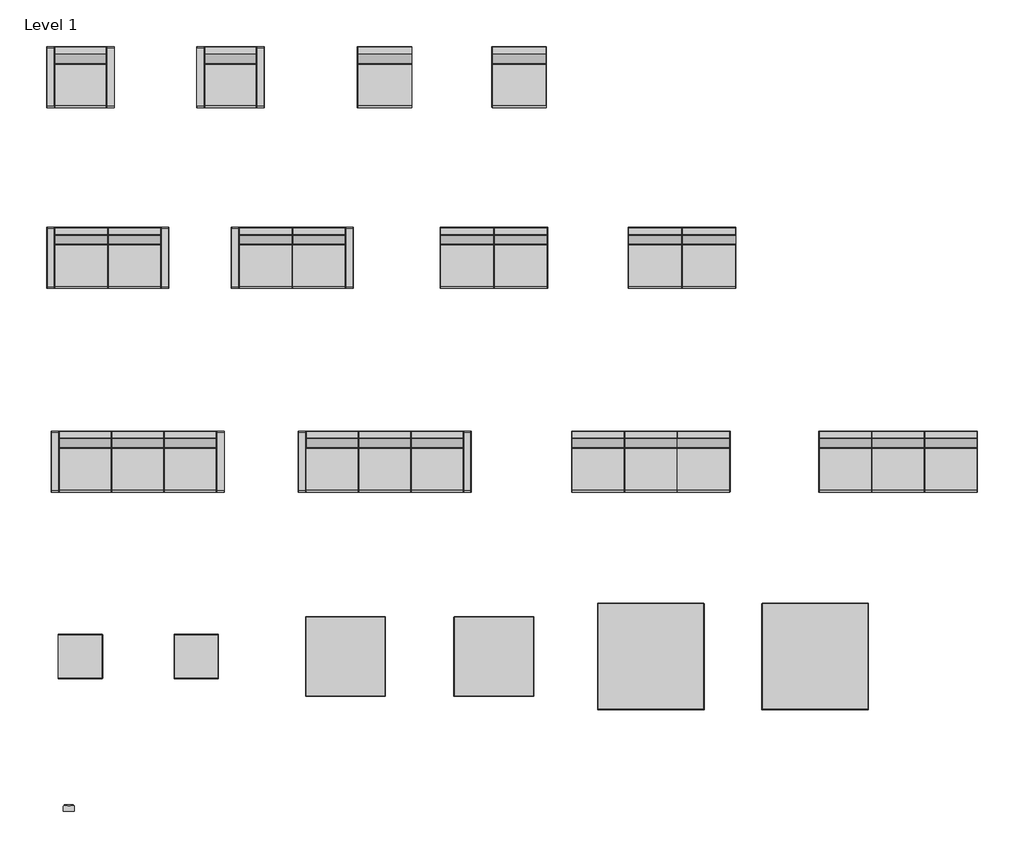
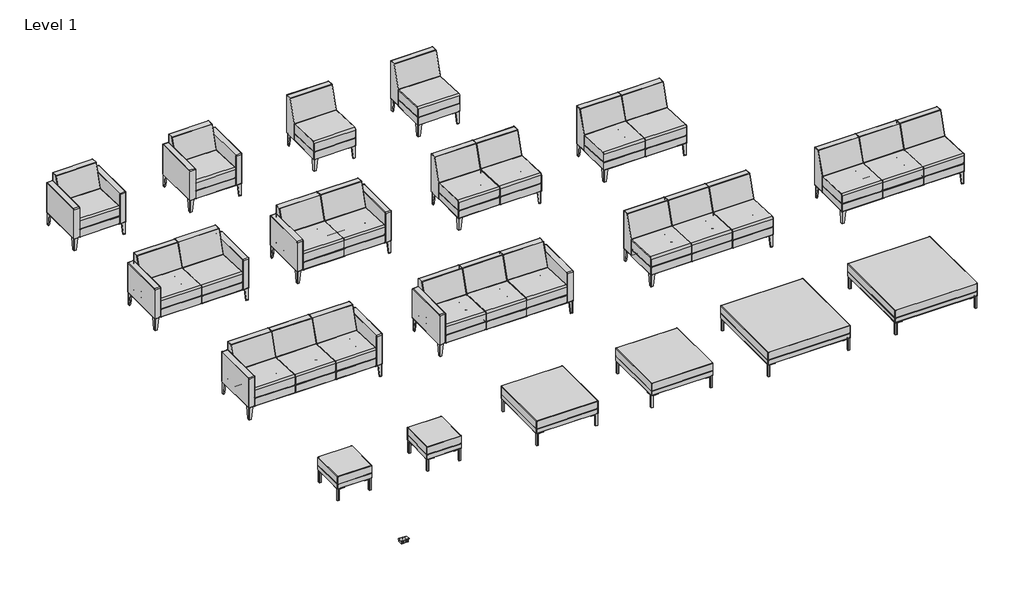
# One storey, incomplete: 19 furniture elements.
"""IFC4 building model written with IfcOpenShell, lengths in millimetres."""

from ifc_helpers import new_model, si_unit, origin, place, context, project, spatial, transform, mapped, element, save
from components import ec30_fccee3ca, tk1611_fd0749d8, tk1611_f8ab0853, tk1613_dd0fc4a0, tk1613_4c493a33, tk1621_2512d733, tk1621_4f83ef63, tk1621_9733f8f7, tk1623_fd01873e, tk1623_f2258a03, tk1631_d5cb96e8, tk1631_d9fb5791, tk1631_d7be27ab, tk1631_0486e6bf, tk1633_6774717b, tk1633_d6f510f4, tk1633_198e8653, tk1633_645ecb18, tk2020_f4fe18ef, tk3636_2cfd0a29, tk4848_6d53636c

model = new_model("IFC4")

# Units and contexts
model_context = context("Model", 3, world=origin())
ifc_project = project(units=[si_unit("LENGTHUNIT", "METRE", prefix="MILLI")], contexts=[model_context])

# Site, building, storey
site = spatial("IfcSite", under=ifc_project)
building = spatial("IfcBuilding", under=site)
storey = spatial("IfcBuildingStorey", under=building, Name="Level 1", Elevation=0.0)

# Furniture
placement = place(None, origin())
ec30_shape = ec30_fccee3ca(model_context)
element("IfcFurniture", 1, ObjectType="JSI-Teekan-Power_Center : EC30", at=placement, inside=storey, context=model_context, shape_type="MappedRepresentation", body=[
    mapped(ec30_shape, transform((-16133.8404938, -11881.6080034, 0.0), x_axis=(1.0, 0.0, 0.0), y_axis=(0.0, 1.0, 0.0), z_axis=(0.0, 0.0, 1.0))),
])
tk1611_shape = tk1611_fd0749d8(model_context)
tk1611_2_shape = tk1611_f8ab0853(model_context)
element("IfcFurniture", 2, ObjectType="JSI-Teekan-Single_Seat_Lounge : TK1611", at=placement, inside=storey, context=model_context, shape_type="MappedRepresentation", body=[
    mapped(tk1611_shape, transform((-16002.6709099, -3512.8761487, 0.0), x_axis=(1.0, 0.0, 0.0), y_axis=(0.0, 1.0, 0.0), z_axis=(0.0, 0.0, 1.0))),
    mapped(tk1611_2_shape, transform((-16002.6709099, -3512.8761487, 0.0), x_axis=(1.0, 0.0, 0.0), y_axis=(0.0, 1.0, 0.0), z_axis=(0.0, 0.0, 1.0))),
])
element("IfcFurniture", 3, ObjectType="JSI-Teekan-Single_Seat_Lounge : TK1611_M", at=placement, inside=storey, context=model_context, shape_type="MappedRepresentation", body=[
    mapped(tk1611_shape, transform((-14284.1267854, -3512.8761487, 0.0), x_axis=(1.0, 0.0, 0.0), y_axis=(0.0, 1.0, 0.0), z_axis=(0.0, 0.0, 1.0))),
    mapped(tk1611_2_shape, transform((-14284.1267854, -3512.8761487, 0.0), x_axis=(1.0, 0.0, 0.0), y_axis=(0.0, 1.0, 0.0), z_axis=(0.0, 0.0, 1.0))),
])
tk1613_shape = tk1613_dd0fc4a0(model_context)
tk1613_2_shape = tk1613_4c493a33(model_context)
element("IfcFurniture", 4, ObjectType="JSI-Teekan-Single_Seat_Lounge : TK1613", at=placement, inside=storey, context=model_context, shape_type="MappedRepresentation", body=[
    mapped(tk1613_shape, transform((-12519.6768509, -3512.8761487, 0.0), x_axis=(1.0, 0.0, 0.0), y_axis=(0.0, 1.0, 0.0), z_axis=(0.0, 0.0, 1.0))),
    mapped(tk1613_2_shape, transform((-12519.6768509, -3512.8761487, 0.0), x_axis=(1.0, 0.0, 0.0), y_axis=(0.0, 1.0, 0.0), z_axis=(0.0, 0.0, 1.0))),
])
element("IfcFurniture", 5, ObjectType="JSI-Teekan-Single_Seat_Lounge : TK1613_M", at=placement, inside=storey, context=model_context, shape_type="MappedRepresentation", body=[
    mapped(tk1613_shape, transform((-10979.6022336, -3512.8761487, 0.0), x_axis=(1.0, 0.0, 0.0), y_axis=(0.0, 1.0, 0.0), z_axis=(0.0, 0.0, 1.0))),
    mapped(tk1613_2_shape, transform((-10979.6022336, -3512.8761487, 0.0), x_axis=(1.0, 0.0, 0.0), y_axis=(0.0, 1.0, 0.0), z_axis=(0.0, 0.0, 1.0))),
])
tk1621_shape = tk1621_2512d733(model_context)
tk1621_2_shape = tk1621_4f83ef63(model_context)
tk1621_3_shape = tk1621_9733f8f7(model_context)
element("IfcFurniture", 6, ObjectType="JSI-Teekan-Two_Seat_Lounge : TK1621", at=placement, inside=storey, context=model_context, shape_type="MappedRepresentation", body=[
    mapped(tk1621_shape, transform((-15687.0236901, -5582.4504956, 0.0), x_axis=(1.0, 0.0, 0.0), y_axis=(0.0, 1.0, 0.0), z_axis=(0.0, 0.0, 1.0))),
    mapped(tk1621_2_shape, transform((-15687.0236901, -5582.4504956, 0.0), x_axis=(1.0, 0.0, 0.0), y_axis=(0.0, 1.0, 0.0), z_axis=(0.0, 0.0, 1.0))),
    mapped(tk1621_3_shape, transform((-15687.0236901, -5582.4504956, 0.0), x_axis=(1.0, 0.0, 0.0), y_axis=(0.0, 1.0, 0.0), z_axis=(0.0, 0.0, 1.0))),
])
element("IfcFurniture", 7, ObjectType="JSI-Teekan-Two_Seat_Lounge : TK1621_M", at=placement, inside=storey, context=model_context, shape_type="MappedRepresentation", body=[
    mapped(tk1621_shape, transform((-13576.2752704, -5582.4504956, 0.0), x_axis=(1.0, 0.0, 0.0), y_axis=(0.0, 1.0, 0.0), z_axis=(0.0, 0.0, 1.0))),
    mapped(tk1621_2_shape, transform((-13576.2752704, -5582.4504956, 0.0), x_axis=(1.0, 0.0, 0.0), y_axis=(0.0, 1.0, 0.0), z_axis=(0.0, 0.0, 1.0))),
    mapped(tk1621_3_shape, transform((-13576.2752704, -5582.4504956, 0.0), x_axis=(1.0, 0.0, 0.0), y_axis=(0.0, 1.0, 0.0), z_axis=(0.0, 0.0, 1.0))),
])
tk1623_shape = tk1623_fd01873e(model_context)
tk1623_2_shape = tk1623_f2258a03(model_context)
element("IfcFurniture", 8, ObjectType="JSI-Teekan-Two_Seat_Lounge : TK1623", at=placement, inside=storey, context=model_context, shape_type="MappedRepresentation", body=[
    mapped(tk1623_shape, transform((-11268.5236647, -5582.4504956, 0.0), x_axis=(1.0, 0.0, 0.0), y_axis=(0.0, 1.0, 0.0), z_axis=(0.0, 0.0, 1.0))),
    mapped(tk1623_2_shape, transform((-11268.5236647, -5582.4504956, 0.0), x_axis=(1.0, 0.0, 0.0), y_axis=(0.0, 1.0, 0.0), z_axis=(0.0, 0.0, 1.0))),
])
element("IfcFurniture", 9, ObjectType="JSI-Teekan-Two_Seat_Lounge : TK1623_M", at=placement, inside=storey, context=model_context, shape_type="MappedRepresentation", body=[
    mapped(tk1623_shape, transform((-9115.5602765, -5582.4504956, 0.0), x_axis=(1.0, 0.0, 0.0), y_axis=(0.0, 1.0, 0.0), z_axis=(0.0, 0.0, 1.0))),
    mapped(tk1623_2_shape, transform((-9115.5602765, -5582.4504956, 0.0), x_axis=(1.0, 0.0, 0.0), y_axis=(0.0, 1.0, 0.0), z_axis=(0.0, 0.0, 1.0))),
])
tk1631_shape = tk1631_d5cb96e8(model_context)
tk1631_2_shape = tk1631_d9fb5791(model_context)
tk1631_3_shape = tk1631_d7be27ab(model_context)
tk1631_4_shape = tk1631_0486e6bf(model_context)
element("IfcFurniture", 10, ObjectType="JSI-Teekan-Three_Seat_Lounge : TK1631", at=placement, inside=storey, context=model_context, shape_type="MappedRepresentation", body=[
    mapped(tk1631_shape, transform((-15346.3287552, -7914.4720224, 0.0), x_axis=(1.0, 0.0, 0.0), y_axis=(0.0, 1.0, 0.0), z_axis=(0.0, 0.0, 1.0))),
    mapped(tk1631_2_shape, transform((-15346.3287552, -7914.4720224, 0.0), x_axis=(1.0, 0.0, 0.0), y_axis=(0.0, 1.0, 0.0), z_axis=(0.0, 0.0, 1.0))),
    mapped(tk1631_3_shape, transform((-15346.3287552, -7914.4720224, 0.0), x_axis=(1.0, 0.0, 0.0), y_axis=(0.0, 1.0, 0.0), z_axis=(0.0, 0.0, 1.0))),
    mapped(tk1631_4_shape, transform((-15346.3287552, -7914.4720224, 0.0), x_axis=(1.0, 0.0, 0.0), y_axis=(0.0, 1.0, 0.0), z_axis=(0.0, 0.0, 1.0))),
])
element("IfcFurniture", 11, ObjectType="JSI-Teekan-Three_Seat_Lounge : TK1631_M", at=placement, inside=storey, context=model_context, shape_type="MappedRepresentation", body=[
    mapped(tk1631_shape, transform((-12519.6768509, -7914.4720224, 0.0), x_axis=(1.0, 0.0, 0.0), y_axis=(0.0, 1.0, 0.0), z_axis=(0.0, 0.0, 1.0))),
    mapped(tk1631_2_shape, transform((-12519.6768509, -7914.4720224, 0.0), x_axis=(1.0, 0.0, 0.0), y_axis=(0.0, 1.0, 0.0), z_axis=(0.0, 0.0, 1.0))),
    mapped(tk1631_3_shape, transform((-12519.6768509, -7914.4720224, 0.0), x_axis=(1.0, 0.0, 0.0), y_axis=(0.0, 1.0, 0.0), z_axis=(0.0, 0.0, 1.0))),
    mapped(tk1631_4_shape, transform((-12519.6768509, -7914.4720224, 0.0), x_axis=(1.0, 0.0, 0.0), y_axis=(0.0, 1.0, 0.0), z_axis=(0.0, 0.0, 1.0))),
])
tk1633_shape = tk1633_6774717b(model_context)
tk1633_2_shape = tk1633_d6f510f4(model_context)
tk1633_3_shape = tk1633_198e8653(model_context)
tk1633_4_shape = tk1633_645ecb18(model_context)
element("IfcFurniture", 12, ObjectType="JSI-Teekan-Three_Seat_Lounge : TK1633", at=placement, inside=storey, context=model_context, shape_type="MappedRepresentation", body=[
    mapped(tk1633_shape, transform((-9472.1159029, -7914.4720224, 0.0), x_axis=(1.0, 0.0, 0.0), y_axis=(0.0, 1.0, 0.0), z_axis=(0.0, 0.0, 1.0))),
    mapped(tk1633_2_shape, transform((-9472.1159029, -7914.4720224, 0.0), x_axis=(1.0, 0.0, 0.0), y_axis=(0.0, 1.0, 0.0), z_axis=(0.0, 0.0, 1.0))),
    mapped(tk1633_3_shape, transform((-9472.1159029, -7914.4720224, 0.0), x_axis=(1.0, 0.0, 0.0), y_axis=(0.0, 1.0, 0.0), z_axis=(0.0, 0.0, 1.0))),
    mapped(tk1633_4_shape, transform((-9472.1159029, -7914.4720224, 0.0), x_axis=(1.0, 0.0, 0.0), y_axis=(0.0, 1.0, 0.0), z_axis=(0.0, 0.0, 1.0))),
])
element("IfcFurniture", 13, ObjectType="JSI-Teekan-Three_Seat_Lounge : TK1633_M", at=placement, inside=storey, context=model_context, shape_type="MappedRepresentation", body=[
    mapped(tk1633_shape, transform((-6640.1951064, -7914.4720224, 0.0), x_axis=(1.0, 0.0, 0.0), y_axis=(0.0, 1.0, 0.0), z_axis=(0.0, 0.0, 1.0))),
    mapped(tk1633_2_shape, transform((-6640.1951064, -7914.4720224, 0.0), x_axis=(1.0, 0.0, 0.0), y_axis=(0.0, 1.0, 0.0), z_axis=(0.0, 0.0, 1.0))),
    mapped(tk1633_3_shape, transform((-6640.1951064, -7914.4720224, 0.0), x_axis=(1.0, 0.0, 0.0), y_axis=(0.0, 1.0, 0.0), z_axis=(0.0, 0.0, 1.0))),
    mapped(tk1633_4_shape, transform((-6640.1951064, -7914.4720224, 0.0), x_axis=(1.0, 0.0, 0.0), y_axis=(0.0, 1.0, 0.0), z_axis=(0.0, 0.0, 1.0))),
])
tk2020_shape = tk2020_f4fe18ef(model_context)
element("IfcFurniture", 14, ObjectType="JSI-Teekan-Square_Ottoman : TK2020", at=placement, inside=storey, context=model_context, shape_type="MappedRepresentation", body=[
    mapped(tk2020_shape, transform((-16002.6709099, -10146.9242397, 0.0), x_axis=(1.0, 0.0, 0.0), y_axis=(0.0, 1.0, 0.0), z_axis=(0.0, 0.0, 1.0))),
])
element("IfcFurniture", 15, ObjectType="JSI-Teekan-Square_Ottoman : TK2020_M", at=placement, inside=storey, context=model_context, shape_type="MappedRepresentation", body=[
    mapped(tk2020_shape, transform((-14675.5498813, -10146.9242397, 0.0), x_axis=(1.0, 0.0, 0.0), y_axis=(0.0, 1.0, 0.0), z_axis=(0.0, 0.0, 1.0))),
])
tk3636_shape = tk3636_2cfd0a29(model_context)
element("IfcFurniture", 16, ObjectType="JSI-Teekan-Square_Ottoman : TK3636", at=placement, inside=storey, context=model_context, shape_type="MappedRepresentation", body=[
    mapped(tk3636_shape, transform((-12968.103921, -10146.9242397, 0.0), x_axis=(1.0, 0.0, 0.0), y_axis=(0.0, 1.0, 0.0), z_axis=(0.0, 0.0, 1.0))),
])
element("IfcFurniture", 17, ObjectType="JSI-Teekan-Square_Ottoman : TK3636_M", at=placement, inside=storey, context=model_context, shape_type="MappedRepresentation", body=[
    mapped(tk3636_shape, transform((-11268.5236647, -10146.9242397, 0.0), x_axis=(1.0, 0.0, 0.0), y_axis=(0.0, 1.0, 0.0), z_axis=(0.0, 0.0, 1.0))),
])
tk4848_shape = tk4848_6d53636c(model_context)
element("IfcFurniture", 18, ObjectType="JSI-Teekan-Square_Ottoman : TK4848", at=placement, inside=storey, context=model_context, shape_type="MappedRepresentation", body=[
    mapped(tk4848_shape, transform((-9472.1159029, -10146.9242397, 0.0), x_axis=(1.0, 0.0, 0.0), y_axis=(0.0, 1.0, 0.0), z_axis=(0.0, 0.0, 1.0))),
])
element("IfcFurniture", 19, ObjectType="JSI-Teekan-Square_Ottoman : TK4848_M", at=placement, inside=storey, context=model_context, shape_type="MappedRepresentation", body=[
    mapped(tk4848_shape, transform((-7589.8817683, -10146.9242397, 0.0), x_axis=(1.0, 0.0, 0.0), y_axis=(0.0, 1.0, 0.0), z_axis=(0.0, 0.0, 1.0))),
])

save(model, "model.ifc")
